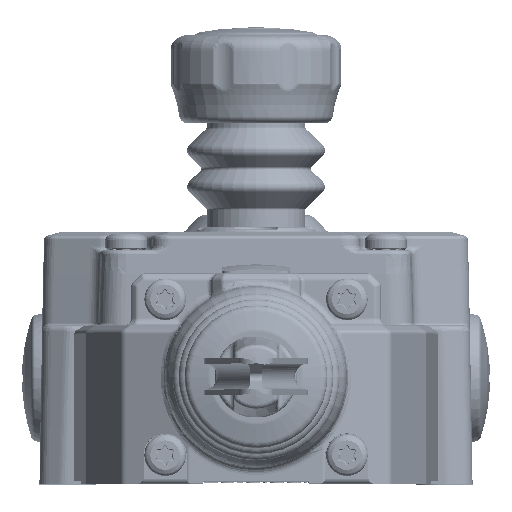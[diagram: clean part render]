
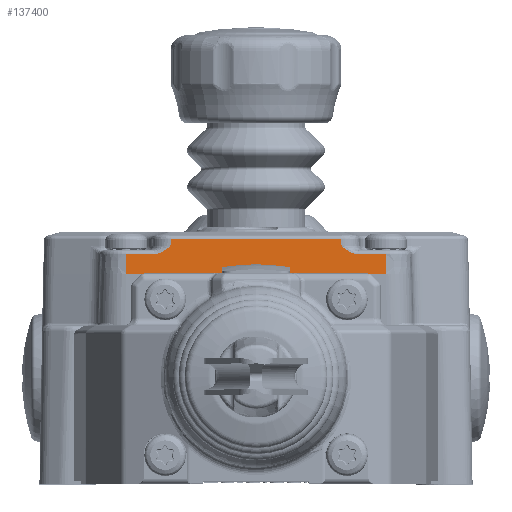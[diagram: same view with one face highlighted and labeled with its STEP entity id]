
A CAD part, top view. The second image highlights one B-rep face of the part: STEP entity #137400.
In plain terms, the highlighted planar face has unit normal (0, 0.035, 0.999).
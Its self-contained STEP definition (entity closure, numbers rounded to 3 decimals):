
#13951=DIRECTION('',(1.,0.,0.));
#13952=VECTOR('',#13951,2.417);
#13953=CARTESIAN_POINT('',(-21.586,20.,0.));
#13954=LINE('',#13953,#13952);
#13980=DIRECTION('',(1.,0.,0.));
#13981=VECTOR('',#13980,31.662);
#13982=CARTESIAN_POINT('',(-15.831,20.,0.));
#13983=LINE('',#13982,#13981);
#14009=DIRECTION('',(1.,0.,0.));
#14010=VECTOR('',#14009,2.417);
#14011=CARTESIAN_POINT('',(19.169,20.,0.));
#14012=LINE('',#14011,#14010);
#14179=DIRECTION('',(0.,-0.999,0.035));
#14180=VECTOR('',#14179,3.73);
#14181=CARTESIAN_POINT('',(-25.,23.728,
-0.13));
#14182=LINE('',#14181,#14180);
#14186=DIRECTION('',(1.,0.,0.));
#14187=VECTOR('',#14186,5.224);
#14188=CARTESIAN_POINT('',(-25.,23.728,
-0.13));
#14189=LINE('',#14188,#14187);
#14193=CARTESIAN_POINT('',(-19.776,23.728,
-0.13));
#14194=CARTESIAN_POINT('',(-19.689,23.728,
-0.13));
#14195=CARTESIAN_POINT('',(-19.509,23.736,
-0.13));
#14196=CARTESIAN_POINT('',(-19.227,23.776,
-0.132));
#14197=CARTESIAN_POINT('',(-18.924,23.847,
-0.134));
#14198=CARTESIAN_POINT('',(-18.596,23.954,
-0.138));
#14199=CARTESIAN_POINT('',(-18.242,24.105,
-0.143));
#14200=CARTESIAN_POINT('',(-17.856,24.307,
-0.15));
#14201=CARTESIAN_POINT('',(-17.434,24.567,
-0.159));
#14202=CARTESIAN_POINT('',(-16.981,24.889,
-0.171));
#14203=CARTESIAN_POINT('',(-16.647,25.132,
-0.179));
#14204=CARTESIAN_POINT('',(-16.475,25.264,
-0.184));
#14209=DIRECTION('',(0.031,0.999,-0.035));
#14210=VECTOR('',#14209,1.331);
#14211=CARTESIAN_POINT('',(-16.47,25.268,
-0.184));
#14212=LINE('',#14211,#14210);
#14216=DIRECTION('',(-1.,0.,0.));
#14217=VECTOR('',#14216,32.858);
#14218=CARTESIAN_POINT('',(16.429,26.597,
-0.23));
#14219=LINE('',#14218,#14217);
#14223=DIRECTION('',(0.035,-0.999,0.035));
#14224=VECTOR('',#14223,1.327);
#14225=CARTESIAN_POINT('',(16.429,26.597,
-0.23));
#14226=LINE('',#14225,#14224);
#14230=CARTESIAN_POINT('',(16.475,25.272,
-0.184));
#14231=CARTESIAN_POINT('',(16.647,25.138,
-0.18));
#14232=CARTESIAN_POINT('',(16.977,24.889,
-0.171));
#14233=CARTESIAN_POINT('',(17.435,24.567,
-0.159));
#14234=CARTESIAN_POINT('',(17.858,24.305,
-0.15));
#14235=CARTESIAN_POINT('',(18.246,24.103,
-0.143));
#14236=CARTESIAN_POINT('',(18.6,23.953,
-0.138));
#14237=CARTESIAN_POINT('',(18.926,23.846,
-0.134));
#14238=CARTESIAN_POINT('',(19.23,23.776,
-0.132));
#14239=CARTESIAN_POINT('',(19.512,23.736,
-0.13));
#14240=CARTESIAN_POINT('',(19.69,23.728,
-0.13));
#14241=CARTESIAN_POINT('',(19.776,23.728,
-0.13));
#14246=DIRECTION('',(1.,0.,0.));
#14247=VECTOR('',#14246,5.224);
#14248=CARTESIAN_POINT('',(19.776,23.728,
-0.13));
#14249=LINE('',#14248,#14247);
#14253=DIRECTION('',(0.,-0.999,0.035));
#14254=VECTOR('',#14253,3.73);
#14255=CARTESIAN_POINT('',(25.,23.728,
-0.13));
#14256=LINE('',#14255,#14254);
#14298=DIRECTION('',(1.,0.,0.));
#14299=VECTOR('',#14298,3.413);
#14300=CARTESIAN_POINT('',(-24.999,20.,0.));
#14301=LINE('',#14300,#14299);
#14761=DIRECTION('',(1.,0.,0.));
#14762=VECTOR('',#14761,3.413);
#14763=CARTESIAN_POINT('',(21.586,20.,0.));
#14764=LINE('',#14763,#14762);
#15734=CARTESIAN_POINT('',(16.475,25.272,
-0.184));
#55090=DIRECTION('',(1.,0.,0.));
#55091=VECTOR('',#55090,3.338);
#55092=CARTESIAN_POINT('',(-19.169,20.,0.));
#55093=LINE('',#55092,#55091);
#55289=DIRECTION('',(1.,0.,0.));
#55290=VECTOR('',#55289,3.338);
#55291=CARTESIAN_POINT('',(15.831,20.,0.));
#55292=LINE('',#55291,#55290);
#117207=CARTESIAN_POINT('',(16.429,26.597,
-0.23));
#117208=CARTESIAN_POINT('',(-16.429,26.597,
-0.23));
#117209=VERTEX_POINT('',#117207);
#117210=VERTEX_POINT('',#117208);
#117914=CARTESIAN_POINT('',(25.,23.728,-0.13));
#117915=VERTEX_POINT('',#117914);
#117918=CARTESIAN_POINT('',(19.776,23.728,
-0.13));
#117919=VERTEX_POINT('',#117918);
#117920=VERTEX_POINT('',#15734);
#117921=VERTEX_POINT('',#14193);
#117922=VERTEX_POINT('',#14204);
#117927=CARTESIAN_POINT('',(-25.,23.728,
-0.13));
#117928=VERTEX_POINT('',#117927);
#118797=CARTESIAN_POINT('',(-24.999,20.,0.));
#118798=CARTESIAN_POINT('',(-21.586,20.,0.));
#118799=VERTEX_POINT('',#118797);
#118800=VERTEX_POINT('',#118798);
#118801=CARTESIAN_POINT('',(-19.169,20.,0.));
#118802=CARTESIAN_POINT('',(-15.831,20.,0.));
#118803=VERTEX_POINT('',#118801);
#118804=VERTEX_POINT('',#118802);
#118805=CARTESIAN_POINT('',(15.831,20.,0.));
#118806=CARTESIAN_POINT('',(19.169,20.,0.));
#118807=VERTEX_POINT('',#118805);
#118808=VERTEX_POINT('',#118806);
#118809=CARTESIAN_POINT('',(21.586,20.,0.));
#118810=CARTESIAN_POINT('',(24.999,20.,0.));
#118811=VERTEX_POINT('',#118809);
#118812=VERTEX_POINT('',#118810);
#137364=CARTESIAN_POINT('',(-32.555,20.,0.));
#137365=DIRECTION('',(0.,0.035,0.999));
#137366=DIRECTION('',(1.,0.,0.));
#137367=AXIS2_PLACEMENT_3D('',#137364,#137365,#137366);
#137368=PLANE('',#137367);
#137370=ORIENTED_EDGE('',*,*,#137369,.F.);
#137372=ORIENTED_EDGE('',*,*,#137371,.F.);
#137374=ORIENTED_EDGE('',*,*,#137373,.T.);
#137376=ORIENTED_EDGE('',*,*,#137375,.T.);
#137378=ORIENTED_EDGE('',*,*,#137377,.T.);
#137380=ORIENTED_EDGE('',*,*,#137379,.F.);
#137382=ORIENTED_EDGE('',*,*,#137381,.T.);
#137384=ORIENTED_EDGE('',*,*,#137383,.T.);
#137386=ORIENTED_EDGE('',*,*,#137385,.T.);
#137388=ORIENTED_EDGE('',*,*,#137387,.T.);
#137390=ORIENTED_EDGE('',*,*,#137389,.F.);
#137391=ORIENTED_EDGE('',*,*,#137308,.F.);
#137393=ORIENTED_EDGE('',*,*,#137392,.F.);
#137394=ORIENTED_EDGE('',*,*,#137302,.F.);
#137396=ORIENTED_EDGE('',*,*,#137395,.F.);
#137397=ORIENTED_EDGE('',*,*,#137296,.F.);
#137398=EDGE_LOOP('',(#137370,#137372,#137374,#137376,#137378,#137380,#137382,
#137384,#137386,#137388,#137390,#137391,#137393,#137394,#137396,#137397));
#137399=FACE_OUTER_BOUND('',#137398,.F.);
#14205=B_SPLINE_CURVE_WITH_KNOTS('',3,(#14193,#14194,#14195,#14196,#14197,
#14198,#14199,#14200,#14201,#14202,#14203,#14204),.UNSPECIFIED.,.F.,.F.,(4,1,1,
1,1,1,1,1,1,4),(0.,0.111,0.222,0.333,
0.444,0.556,0.667,0.778,
0.889,1.),.UNSPECIFIED.);
#14242=B_SPLINE_CURVE_WITH_KNOTS('',3,(#14230,#14231,#14232,#14233,#14234,
#14235,#14236,#14237,#14238,#14239,#14240,#14241),.UNSPECIFIED.,.F.,.F.,(4,1,1,
1,1,1,1,1,1,4),(0.,0.111,0.222,0.333,
0.444,0.556,0.667,0.778,
0.889,1.),.UNSPECIFIED.);
#137296=EDGE_CURVE('',#118800,#118803,#13954,.T.);
#137302=EDGE_CURVE('',#118804,#118807,#13983,.T.);
#137308=EDGE_CURVE('',#118808,#118811,#14012,.T.);
#137369=EDGE_CURVE('',#118799,#118800,#14301,.T.);
#137371=EDGE_CURVE('',#117928,#118799,#14182,.T.);
#137373=EDGE_CURVE('',#117928,#117921,#14189,.T.);
#137375=EDGE_CURVE('',#117921,#117922,#14205,.T.);
#137377=EDGE_CURVE('',#117922,#117210,#14212,.T.);
#137379=EDGE_CURVE('',#117209,#117210,#14219,.T.);
#137381=EDGE_CURVE('',#117209,#117920,#14226,.T.);
#137383=EDGE_CURVE('',#117920,#117919,#14242,.T.);
#137385=EDGE_CURVE('',#117919,#117915,#14249,.T.);
#137387=EDGE_CURVE('',#117915,#118812,#14256,.T.);
#137389=EDGE_CURVE('',#118811,#118812,#14764,.T.);
#137392=EDGE_CURVE('',#118807,#118808,#55292,.T.);
#137395=EDGE_CURVE('',#118803,#118804,#55093,.T.);
#137400=ADVANCED_FACE('',(#137399),#137368,.T.);
